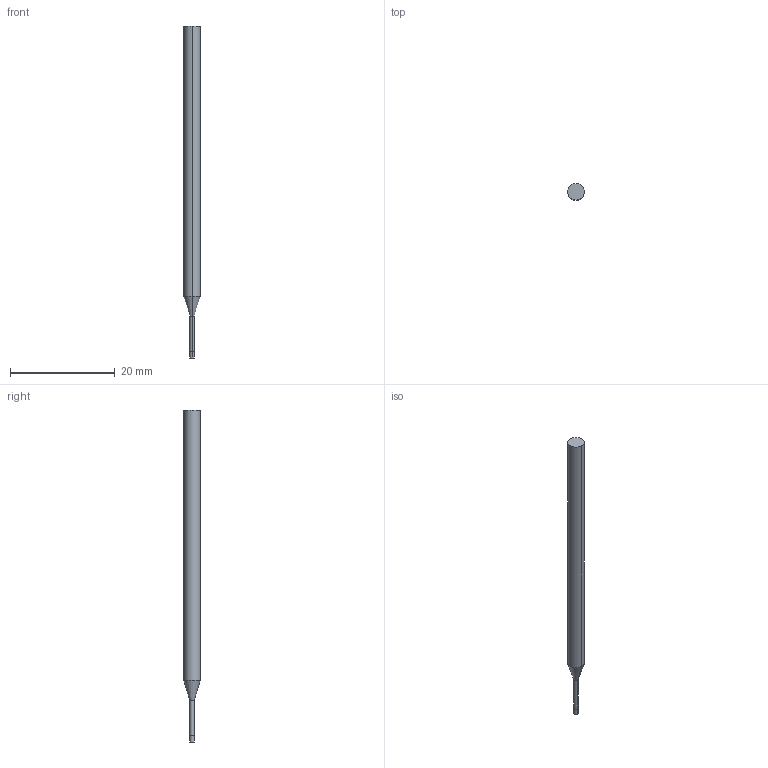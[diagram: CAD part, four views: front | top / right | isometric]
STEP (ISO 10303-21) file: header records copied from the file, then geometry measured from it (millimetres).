
FILE_DESCRIPTION((' '),'2;1');
FILE_NAME( '3MVS0312N10AH.stp', '2026-01-21T19:06:37', (' '), ('--- Datakit www.datakit.com---'), ' Datakit CrossCadWare V2025.4 Sep 19 2025', 'Mastercam 2027', ' ');
FILE_SCHEMA(('AUTOMOTIVE_DESIGN { 1 0 10303 214 1 1 1 1 }'));
Length unit declared in the file: inch
Products named in the file (1): 3MVS0312N10AH
Bounding box: 3.17 x 3.17 x 63.5 mm (x, y, z)
Volume: 426.6 mm3; surface area: 569 mm2
Topology: 1 solids, 1 shells, 10 faces, 18 edges, 10 vertices
Faces by surface type: cylinder 6, plane 2, cone 2
Entity records: 323 total; most frequent: DIRECTION 58, CARTESIAN_POINT 43, ORIENTED_EDGE 36, AXIS2_PLACEMENT_3D 25, EDGE_CURVE 18, VERTEX_POINT 10, CIRCLE 10, EDGE_LOOP 10
